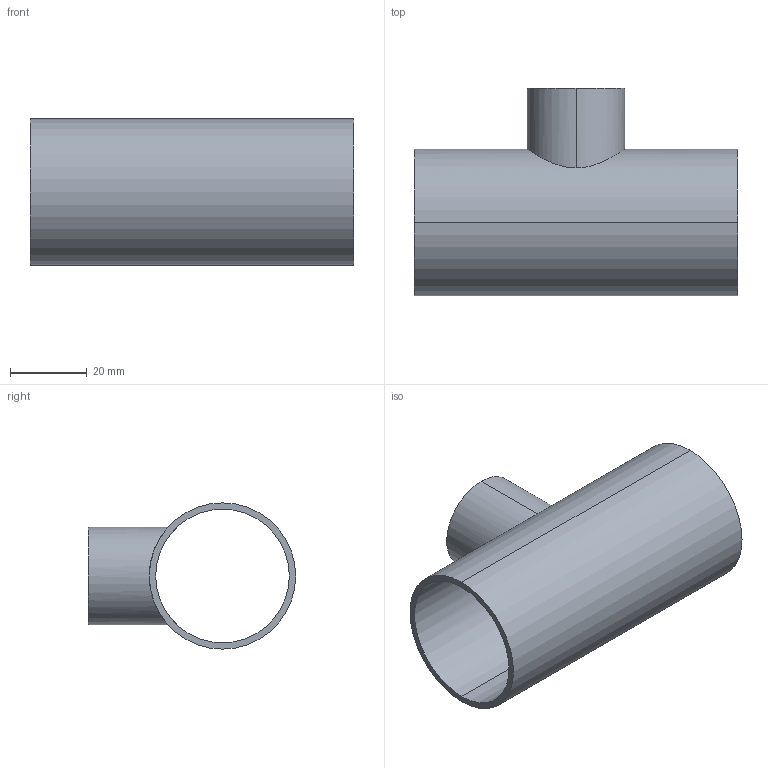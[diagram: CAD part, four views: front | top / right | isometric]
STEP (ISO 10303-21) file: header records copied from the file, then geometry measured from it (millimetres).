
FILE_DESCRIPTION (( 'STEP AP203' ), '1' );
FILE_NAME ('E7RWWW1.5X1.0.STEP', '2018-04-30T18:52:25', ( 'vneprd' ), ( 'Microsoft' ), 'SwSTEP 2.0', 'SolidWorks 2014', '' );
FILE_SCHEMA (( 'CONFIG_CONTROL_DESIGN' ));
Length unit declared in the file: inch
Products named in the file (1): E7RWWW1.5X1.0
Bounding box: 84.12 x 53.98 x 38.1 mm (x, y, z)
Volume: 17441.4 mm3; surface area: 21622.4 mm2
Topology: 1 solids, 1 shells, 11 faces, 24 edges, 16 vertices
Faces by surface type: cylinder 8, plane 3
Entity records: 585 total; most frequent: CARTESIAN_POINT 248, DIRECTION 56, ORIENTED_EDGE 48, EDGE_CURVE 24, AXIS2_PLACEMENT_3D 24, VERTEX_POINT 16, EDGE_LOOP 16, CIRCLE 12
